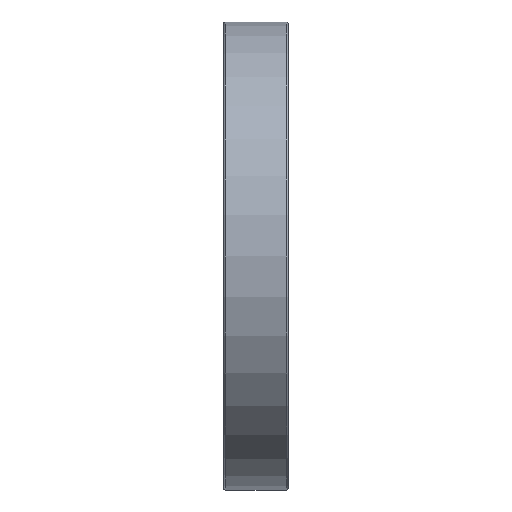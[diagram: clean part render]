
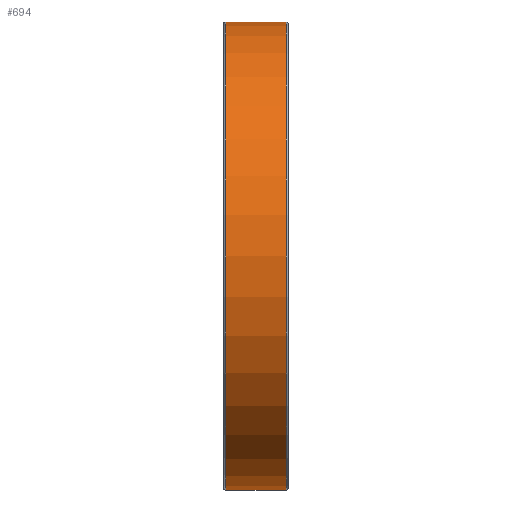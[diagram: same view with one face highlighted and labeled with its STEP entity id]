
A CAD part, front view. The second image highlights one B-rep face of the part: STEP entity #694.
In plain terms, the highlighted cylindrical face has radius 65 mm (diameter 130 mm), a full revolution.
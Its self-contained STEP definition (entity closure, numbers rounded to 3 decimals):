
#194=CYLINDRICAL_SURFACE('',#1114,65.);
#330=EDGE_LOOP('',(#478));
#331=EDGE_LOOP('',(#479));
#478=ORIENTED_EDGE('',*,*,#560,.F.);
#479=ORIENTED_EDGE('',*,*,#558,.T.);
#558=EDGE_CURVE('',#1023,#1023,#578,.T.);
#560=EDGE_CURVE('',#1025,#1025,#580,.T.);
#578=CIRCLE('',#1110,65.);
#580=CIRCLE('',#1113,65.);
#694=ADVANCED_FACE('',(#889,#890),#194,.T.);
#889=FACE_BOUND('',#330,.T.);
#890=FACE_BOUND('',#331,.T.);
#1023=VERTEX_POINT('',#2442);
#1025=VERTEX_POINT('',#2447);
#1110=AXIS2_PLACEMENT_3D('',#2441,#1265,#1266);
#1113=AXIS2_PLACEMENT_3D('',#2446,#1271,#1272);
#1114=AXIS2_PLACEMENT_3D('',#2448,#1273,#1274);
#1265=DIRECTION('',(1.,0.,0.));
#1266=DIRECTION('',(0.,0.,-1.));
#1271=DIRECTION('',(1.,0.,0.));
#1272=DIRECTION('',(0.,0.,-1.));
#1273=DIRECTION('',(1.,0.,0.));
#1274=DIRECTION('',(0.,0.,-1.));
#2441=CARTESIAN_POINT('',(-8.4,0.,0.));
#2442=CARTESIAN_POINT('',(-8.4,0.,-65.));
#2446=CARTESIAN_POINT('',(8.4,0.,0.));
#2447=CARTESIAN_POINT('',(8.4,0.,-65.));
#2448=CARTESIAN_POINT('',(-8.4,0.,0.));
